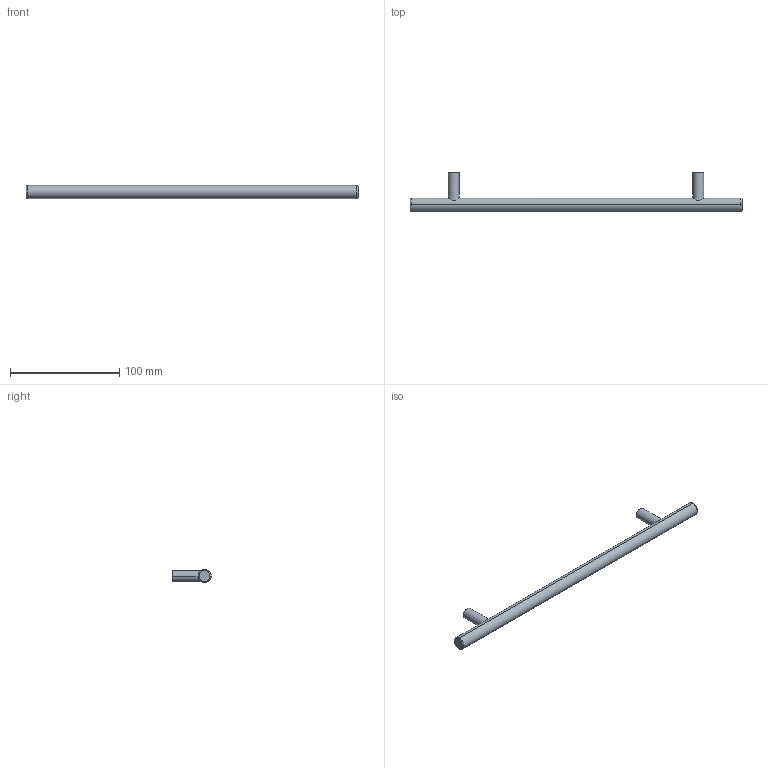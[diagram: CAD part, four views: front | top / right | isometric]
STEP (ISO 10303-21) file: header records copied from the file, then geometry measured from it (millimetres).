
FILE_DESCRIPTION( ( '' ), '1' );
FILE_NAME( 'C:/Documents and Settings/Sachin/Desktop/Sheet 10_1/stp/9070763.stp', '2013-10-22T12:32:23', ( '' ), ( '' ), ' ', ' ', ' ' );
FILE_SCHEMA( ( 'CONFIG_CONTROL_DESIGN' ) );
Length unit declared in the file: millimetre
Products named in the file (1): 1
Bounding box: 304 x 35 x 12 mm (x, y, z)
Volume: 37869 mm3; surface area: 13358.3 mm2
Topology: 1 solids, 1 shells, 20 faces, 44 edges, 30 vertices
Faces by surface type: cylinder 10, plane 6, torus 4
Entity records: 738 total; most frequent: CARTESIAN_POINT 229, DIRECTION 108, ORIENTED_EDGE 88, AXIS2_PLACEMENT_3D 49, EDGE_CURVE 44, VERTEX_POINT 30, CIRCLE 28, EDGE_LOOP 24
